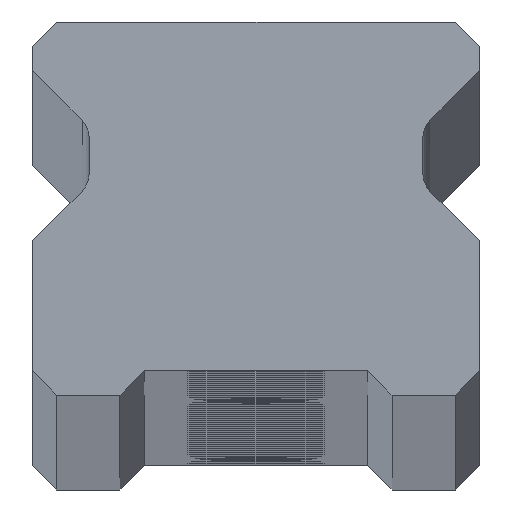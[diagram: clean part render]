
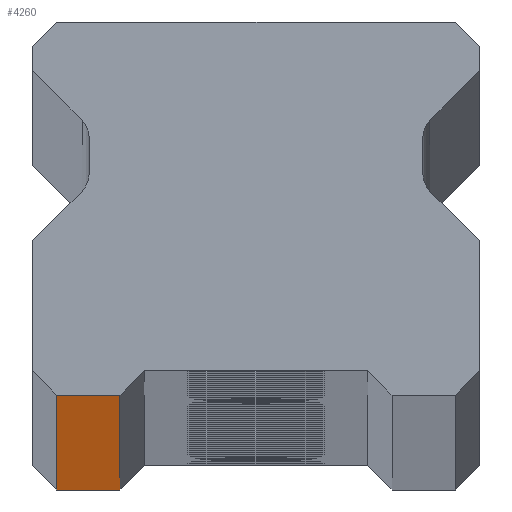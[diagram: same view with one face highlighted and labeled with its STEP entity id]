
A CAD part, top view. The second image highlights one B-rep face of the part: STEP entity #4260.
In plain terms, the highlighted planar face has unit normal (0, -1, 0).
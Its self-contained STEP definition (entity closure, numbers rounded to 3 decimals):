
#560 = DIRECTION ( 'NONE',  ( 1., 0., 0. ) ) ;
#1200 = CARTESIAN_POINT ( 'NONE',  ( 11.5, 0., 1400. ) ) ;
#1233 = FACE_OUTER_BOUND ( 'NONE', #7199, .T. ) ;
#1505 = CARTESIAN_POINT ( 'NONE',  ( -7., 0., -1400. ) ) ;
#1885 = VECTOR ( 'NONE', #2089, 1000. ) ;
#2089 = DIRECTION ( 'NONE',  ( 0., 0., 1. ) ) ;
#2301 = DIRECTION ( 'NONE',  ( -1., 0., 0. ) ) ;
#2303 = VERTEX_POINT ( 'NONE', #7831 ) ;
#2538 = VECTOR ( 'NONE', #4327, 1000. ) ;
#2594 = AXIS2_PLACEMENT_3D ( 'NONE', #8057, #6172, #2301 ) ;
#2763 = VECTOR ( 'NONE', #4433, 1000. ) ;
#2804 = ORIENTED_EDGE ( 'NONE', *, *, #4919, .T. ) ;
#2817 = CARTESIAN_POINT ( 'NONE',  ( -7., 0., 1400. ) ) ;
#3324 = VECTOR ( 'NONE', #560, 1000. ) ;
#3421 = ORIENTED_EDGE ( 'NONE', *, *, #6555, .T. ) ;
#3432 = ORIENTED_EDGE ( 'NONE', *, *, #6138, .T. ) ;
#3947 = CARTESIAN_POINT ( 'NONE',  ( -10.25, 0., 1400. ) ) ;
#3969 = LINE ( 'NONE', #1505, #1885 ) ;
#4029 = VERTEX_POINT ( 'NONE', #4449 ) ;
#4260 = ADVANCED_FACE ( 'NONE', ( #1233 ), #5537, .F. ) ;
#4327 = DIRECTION ( 'NONE',  ( 1., 0., 0. ) ) ;
#4433 = DIRECTION ( 'NONE',  ( 0., 0., -1. ) ) ;
#4434 = LINE ( 'NONE', #1200, #3324 ) ;
#4449 = CARTESIAN_POINT ( 'NONE',  ( -7., 0., -1400. ) ) ;
#4919 = EDGE_CURVE ( 'NONE', #4029, #5487, #3969, .T. ) ;
#5487 = VERTEX_POINT ( 'NONE', #2817 ) ;
#5537 = PLANE ( 'NONE',  #2594 ) ;
#5631 = CARTESIAN_POINT ( 'NONE',  ( -10.25, 0., 1400. ) ) ;
#5890 = VERTEX_POINT ( 'NONE', #3947 ) ;
#6001 = ORIENTED_EDGE ( 'NONE', *, *, #7648, .F. ) ;
#6138 = EDGE_CURVE ( 'NONE', #5890, #2303, #6223, .T. ) ;
#6172 = DIRECTION ( 'NONE',  ( 0., 1., 0. ) ) ;
#6223 = LINE ( 'NONE', #5631, #2763 ) ;
#6555 = EDGE_CURVE ( 'NONE', #2303, #4029, #6989, .T. ) ;
#6989 = LINE ( 'NONE', #7479, #2538 ) ;
#7199 = EDGE_LOOP ( 'NONE', ( #3421, #2804, #6001, #3432 ) ) ;
#7479 = CARTESIAN_POINT ( 'NONE',  ( 11.5, 0., -1400. ) ) ;
#7648 = EDGE_CURVE ( 'NONE', #5890, #5487, #4434, .T. ) ;
#7831 = CARTESIAN_POINT ( 'NONE',  ( -10.25, 0., -1400. ) ) ;
#8057 = CARTESIAN_POINT ( 'NONE',  ( 11.5, 0., 1400. ) ) ;
